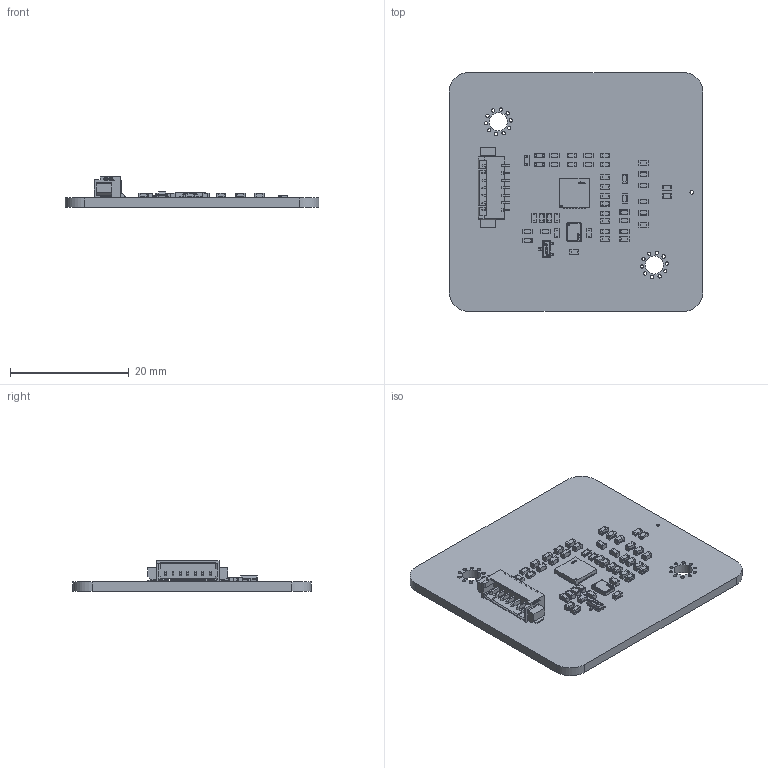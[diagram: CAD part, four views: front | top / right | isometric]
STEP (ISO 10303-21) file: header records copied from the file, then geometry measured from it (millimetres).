
FILE_DESCRIPTION(('Designed by EasyEDA Pro'),'2;1');
FILE_NAME('Open CASCADE Shape Model','2025-04-10T18:07:00',('Author'),( 'Open CASCADE'),'Open CASCADE STEP processor 7.8','Open CASCADE 7.8' ,'Unknown');
FILE_SCHEMA(('AUTOMOTIVE_DESIGN { 1 0 10303 214 1 1 1 1 }'));
Length unit declared in the file: millimetre
Products named in the file (60): EasyEDA PCB Model~954U; Board~954U; TopCopper~954U; BottomCopper~954U; TopFpcStiffener~954U; BottomFpcStiffener~954U; C2~C0603~C0603_L1.6-W0.8-H0.8~954U; C0603~C0603_L1.6-W0.8-H0.8~954U; C3~C0603~C0603_L1.6-W0.8-H0.8~954U; C4~C0603~C0603_L1.6-W0.8-H0.8~954U; C5~C0603~C0603_L1.6-W0.8-H0.8~954U; C6~C0603~C0603_L1.6-W0.8-H0.8~954U; C7~C0603~C0603_L1.6-W0.8-H0.8~954U; C8~C0603~C0603_L1.6-W0.8-H0.8~954U; C34~C0603~C0603_L1.6-W0.8-H0.8~954U; C36~C0603~C0603_L1.6-W0.8-H0.8~954U; C9~C0402~C0603_L1.6-W0.8-H0.8~954U; C10~C0402~C0603_L1.6-W0.8-H0.8~954U; C11~C0402~C0603_L1.6-W0.8-H0.8~954U; C12~C0402~C0603_L1.6-W0.8-H0.8~954U; C15~C0402~C0603_L1.6-W0.8-H0.8~954U; C17~C0402~C0603_L1.6-W0.8-H0.8~954U; C21~C0402~C0603_L1.6-W0.8-H0.8~954U; C22~C0402~C0603_L1.6-W0.8-H0.8~954U; C23~C0402~C0603_L1.6-W0.8-H0.8~954U; C24~C0402~C0603_L1.6-W0.8-H0.8~954U; C25~C0402~C0603_L1.6-W0.8-H0.8~954U; C26~C0402~C0603_L1.6-W0.8-H0.8~954U; C27~C0402~C0603_L1.6-W0.8-H0.8~954U; C28~C0402~C0603_L1.6-W0.8-H0.8~954U; C29~C0402~C0603_L1.6-W0.8-H0.8~954U; C30~C0402~C0603_L1.6-W0.8-H0.8~954U; C31~C0402~C0603_L1.6-W0.8-H0.8~954U; C32~C0402~C0603_L1.6-W0.8-H0.8~954U; C33~C0402~C0603_L1.6-W0.8-H0.8~954U; C35~C0402~C0603_L1.6-W0.8-H0.8~954U; C13~C0402~C0603_L1.6-W0.8-H0.8~954U; C14~C0402~C0603_L1.6-W0.8-H0.8~954U; C16~C0402~C0603_L1.6-W0.8-H0.8~954U; C18~C0402~C0603_L1.6-W0.8-H0.8~954U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
Assembly tree (99 placements, depth 3):
  EasyEDA PCB Model~954U
    Board~954U
    TopCopper~954U
    BottomCopper~954U
    TopFpcStiffener~954U
    BottomFpcStiffener~954U
    C2~C0603~C0603_L1.6-W0.8-H0.8~954U
      C0603~C0603_L1.6-W0.8-H0.8~954U
    C3~C0603~C0603_L1.6-W0.8-H0.8~954U
      C0603~C0603_L1.6-W0.8-H0.8~954U
    C4~C0603~C0603_L1.6-W0.8-H0.8~954U
      C0603~C0603_L1.6-W0.8-H0.8~954U
    C5~C0603~C0603_L1.6-W0.8-H0.8~954U
      C0603~C0603_L1.6-W0.8-H0.8~954U
    C6~C0603~C0603_L1.6-W0.8-H0.8~954U
      C0603~C0603_L1.6-W0.8-H0.8~954U
    C7~C0603~C0603_L1.6-W0.8-H0.8~954U
      C0603~C0603_L1.6-W0.8-H0.8~954U
    C8~C0603~C0603_L1.6-W0.8-H0.8~954U
      C0603~C0603_L1.6-W0.8-H0.8~954U
    C34~C0603~C0603_L1.6-W0.8-H0.8~954U
      C0603~C0603_L1.6-W0.8-H0.8~954U
    C36~C0603~C0603_L1.6-W0.8-H0.8~954U
      C0603~C0603_L1.6-W0.8-H0.8~954U
    C9~C0402~C0603_L1.6-W0.8-H0.8~954U
      C0603~C0603_L1.6-W0.8-H0.8~954U
    C10~C0402~C0603_L1.6-W0.8-H0.8~954U
      C0603~C0603_L1.6-W0.8-H0.8~954U
    C11~C0402~C0603_L1.6-W0.8-H0.8~954U
      C0603~C0603_L1.6-W0.8-H0.8~954U
    C12~C0402~C0603_L1.6-W0.8-H0.8~954U
      C0603~C0603_L1.6-W0.8-H0.8~954U
    C15~C0402~C0603_L1.6-W0.8-H0.8~954U
      C0603~C0603_L1.6-W0.8-H0.8~954U
    C17~C0402~C0603_L1.6-W0.8-H0.8~954U
      C0603~C0603_L1.6-W0.8-H0.8~954U
    C21~C0402~C0603_L1.6-W0.8-H0.8~954U
      C0603~C0603_L1.6-W0.8-H0.8~954U
    C22~C0402~C0603_L1.6-W0.8-H0.8~954U
      C0603~C0603_L1.6-W0.8-H0.8~954U
    C23~C0402~C0603_L1.6-W0.8-H0.8~954U
      C0603~C0603_L1.6-W0.8-H0.8~954U
    C24~C0402~C0603_L1.6-W0.8-H0.8~954U
      C0603~C0603_L1.6-W0.8-H0.8~954U
    C25~C0402~C0603_L1.6-W0.8-H0.8~954U
      C0603~C0603_L1.6-W0.8-H0.8~954U
    C26~C0402~C0603_L1.6-W0.8-H0.8~954U
      C0603~C0603_L1.6-W0.8-H0.8~954U
    C27~C0402~C0603_L1.6-W0.8-H0.8~954U
      C0603~C0603_L1.6-W0.8-H0.8~954U
    C28~C0402~C0603_L1.6-W0.8-H0.8~954U
      C0603~C0603_L1.6-W0.8-H0.8~954U
    C29~C0402~C0603_L1.6-W0.8-H0.8~954U
      C0603~C0603_L1.6-W0.8-H0.8~954U
    C30~C0402~C0603_L1.6-W0.8-H0.8~954U
      C0603~C0603_L1.6-W0.8-H0.8~954U
    C31~C0402~C0603_L1.6-W0.8-H0.8~954U
      C0603~C0603_L1.6-W0.8-H0.8~954U
    C32~C0402~C0603_L1.6-W0.8-H0.8~954U
      C0603~C0603_L1.6-W0.8-H0.8~954U
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Bounding box: 42.79 x 40.23 x 5.2 mm (x, y, z)
Volume: 2881 mm3; surface area: 4472.6 mm2
Topology: 92 solids, 92 shells, 17027 faces, 46154 edges, 30179 vertices
Faces by surface type: plane 9805, bspline 5250, cylinder 1609, sphere 327, torus 36
Entity records: 123850 total; most frequent: CARTESIAN_POINT 35408, ORIENTED_EDGE 16760, DIRECTION 12048, EDGE_CURVE 8380, LINE 5906, VECTOR 5906, VERTEX_POINT 5491, FACE_BOUND 3371
